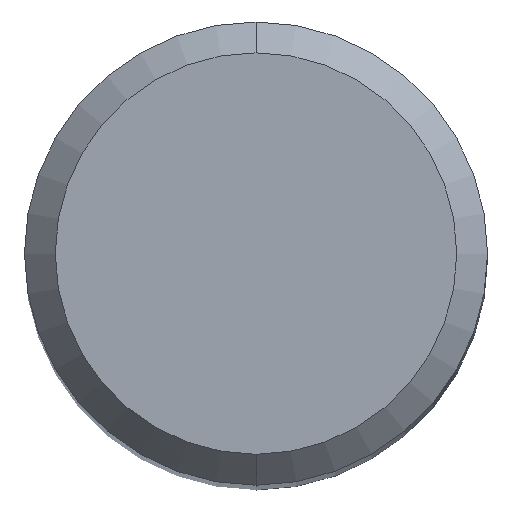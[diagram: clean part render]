
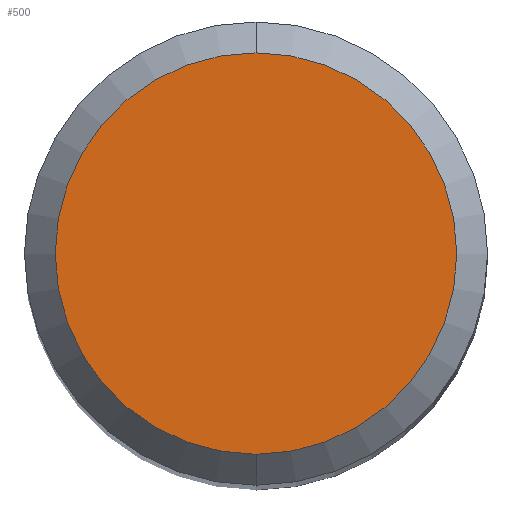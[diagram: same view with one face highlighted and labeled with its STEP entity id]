
A CAD part, top view. The second image highlights one B-rep face of the part: STEP entity #500.
In plain terms, the highlighted planar face has unit normal (0, 0, 1).
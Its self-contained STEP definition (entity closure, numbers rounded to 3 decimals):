
#252=EDGE_CURVE('',#270,#464,#594,.T.);
#270=VERTEX_POINT('',#614);
#294=EDGE_CURVE('',#464,#270,#639,.T.);
#464=VERTEX_POINT('',#828);
#500=ADVANCED_FACE('',(#867),#868,.T.);
#594=CIRCLE('',#1030,2.6);
#614=CARTESIAN_POINT('',(0.,-2.6,0.0));
#639=CIRCLE('',#1104,2.6);
#828=CARTESIAN_POINT('',(0.0,2.6,0.0));
#867=FACE_OUTER_BOUND('',#1547,.T.);
#868=PLANE('',#1548);
#1030=AXIS2_PLACEMENT_3D('',#1632,#1633,#1634);
#1104=AXIS2_PLACEMENT_3D('',#1683,#1684,#1685);
#1547=EDGE_LOOP('',(#1937,#1938));
#1548=AXIS2_PLACEMENT_3D('',#1939,#1940,#1941);
#1632=CARTESIAN_POINT('',(0.0,0.0,0.0));
#1633=DIRECTION('',(0.0,0.0,-1.0));
#1634=DIRECTION('',(0.0,1.0,0.0));
#1683=CARTESIAN_POINT('',(0.0,0.0,0.0));
#1684=DIRECTION('',(0.0,0.0,-1.0));
#1685=DIRECTION('',(0.0,1.0,0.0));
#1937=ORIENTED_EDGE('',*,*,#294,.F.);
#1938=ORIENTED_EDGE('',*,*,#252,.F.);
#1939=CARTESIAN_POINT('',(0.0,1.3,0.0));
#1940=DIRECTION('',(-0.0,0.0,1.0));
#1941=DIRECTION('',(0.0,-1.0,0.0));
